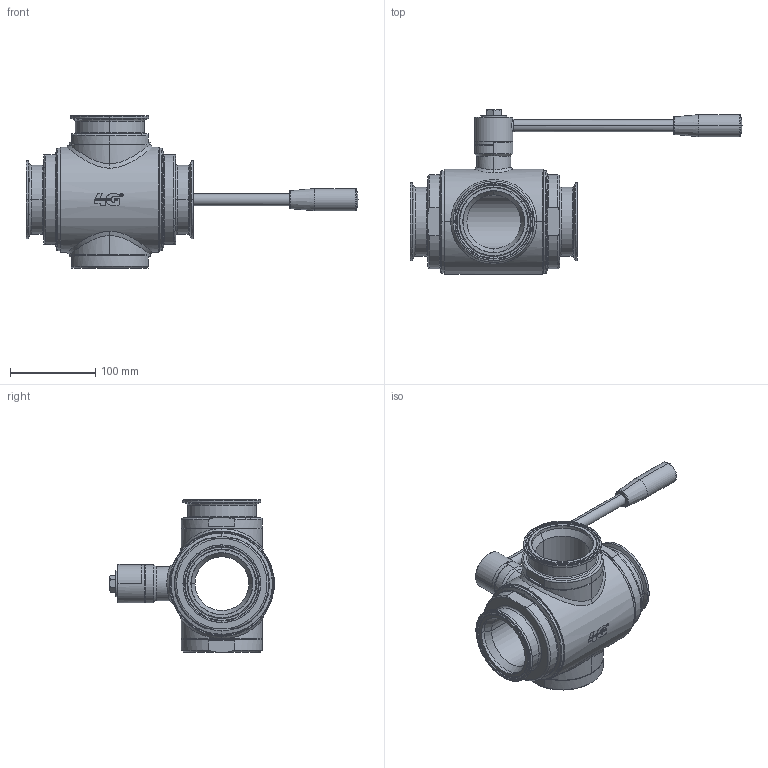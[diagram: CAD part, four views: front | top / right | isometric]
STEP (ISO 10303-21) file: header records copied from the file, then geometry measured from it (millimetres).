
FILE_DESCRIPTION((''),'2;1');
FILE_NAME('30013064710_SW0001','2026-06-05T13:54:15',('tecnico2'),('CDM Tecnoconsulting'),'CREO PARAMETRIC BY PTC INC, 2024063','CREO PARAMETRIC BY PTC INC, 2024063','');
FILE_SCHEMA(('CONFIG_CONTROL_DESIGN','SHAPE_APPEARANCE_LAYERS_GROUPS'));
Products named in the file (1): 30013064710_SW0001
Bounding box: 388.5 x 192.8 x 178 mm (x, y, z)
Volume: 1492741.6 mm3; surface area: 286229.7 mm2
Topology: 1 solids, 1 shells, 1084 faces, 2855 edges, 1800 vertices
Faces by surface type: plane 455, cylinder 220, cone 144, extrusion 112, torus 90, bspline 57, sphere 6
Entity records: 64603 total; most frequent: CARTESIAN_POINT 27969, ORIENTED_EDGE 5674, DIRECTION 4887, PRESENTATION_STYLE_ASSIGNMENT 3176, STYLED_ITEM 2894, CURVE_STYLE 2893, EDGE_CURVE 2837, VERTEX_POINT 1800
